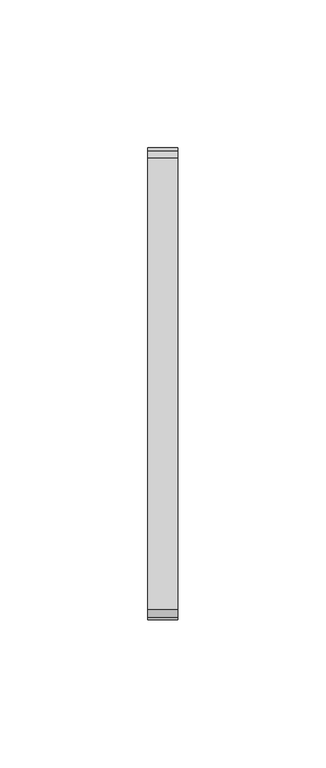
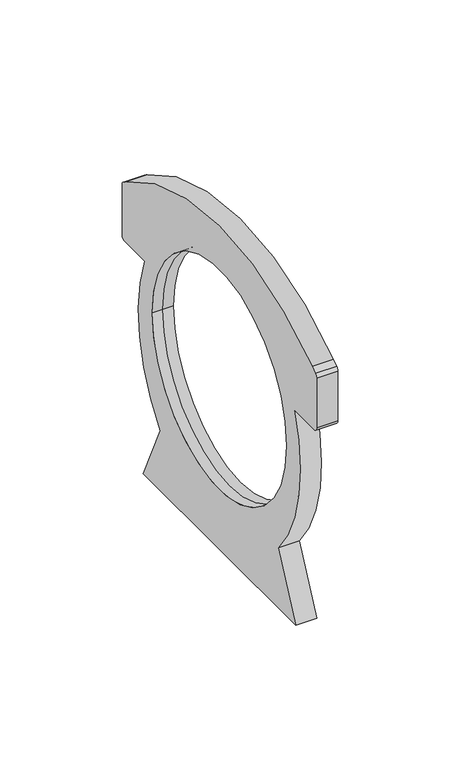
"""IFC4 building model written with IfcOpenShell, lengths in millimetres: valve geometry, PP_KELEPÇE : PP_KELEPÇE."""

from ifc_helpers import new_model, si_unit, frame, origin, place, context, project, spatial, polyline, circle_curve, source, transform, mapped, element, save
from ifc_brep_helpers import plane_surface, cylinder_surface, revolved_surface, advanced_brep


def valve_aa45e59f(model_context):
    return source(origin(), model_context, "Body", "AdvancedBrep", [
        advanced_brep(
        [(5.0, -76.1471333, 52.699694), (5.0, -78.8200811, 50.8098343), (5.0, -79.75, 49.0134785), (5.0, -79.75, 24.2), (5.0, -77.55, 22.0), (5.0, -61.2288831, 22.0), (5.0, -48.3114202, -55.0), (5.0, -62.5, -85.0), (5.0, 62.5, -85.0), (5.0, 48.3114202, -55.0), (5.0, 61.2288831, 22.0), (5.0, 77.55, 22.0), (5.0, 79.75, 24.2), (5.0, 79.75, 49.0065226), (5.0, 78.8233067, 50.8005934), (5.0, 76.3405231, 52.5627005), (5.0, -55.0, 0.0), (5.0, 55.0, 0.0), (-5.0, -76.1471333, 52.699694), (-5.0, 76.3405231, 52.5627005), (-5.0, 78.8233067, 50.8005934), (-5.0, 79.75, 49.0065226), (-5.0, 79.75, 24.2), (-5.0, 77.55, 22.0), (-5.0, 61.2288831, 22.0), (-5.0, 48.3114202, -55.0), (-5.0, 62.5, -85.0), (-5.0, -62.5, -85.0), (-5.0, -48.3114202, -55.0), (-5.0, -61.2288831, 22.0), (-5.0, -77.55, 22.0), (-5.0, -79.75, 24.2), (-5.0, -79.75, 49.0134785), (-5.0, -78.8200811, 50.8098343), (-5.0, 55.0, 0.0), (-5.0, -55.0, 0.0), (0.0, -55.0, 0.0), (0.0, 55.0, 0.0)],
        [
            (0, 1),
            (1, 2, circle_curve(frame((5.0, -77.55, 49.0134785), z_axis=(1.0, 0.0, 0.0), x_axis=(0.0, 1.0, 0.0)), 2.2)),
            (2, 3),
            (3, 4, circle_curve(frame((5.0, -77.55, 24.2), z_axis=(1.0, 0.0, 0.0), x_axis=(0.0, 1.0, 0.0)), 2.2)),
            (4, 5),
            (5, 6, circle_curve(frame((5.0, 10.8, -5.5), z_axis=(1.0, 0.0, 0.0), x_axis=(0.0, 1.0, 0.0)), 77.1)),
            (6, 7),
            (7, 8),
            (8, 9),
            (9, 10, circle_curve(frame((5.0, -10.8, -5.5), z_axis=(1.0, 0.0, 0.0), x_axis=(0.0, 1.0, 0.0)), 77.1)),
            (10, 11),
            (11, 12, circle_curve(frame((5.0, 77.55, 24.2), z_axis=(1.0, 0.0, 0.0), x_axis=(0.0, 1.0, 0.0)), 2.2)),
            (12, 13),
            (13, 14, circle_curve(frame((5.0, 77.55, 49.0065226), z_axis=(1.0, 0.0, 0.0), x_axis=(0.0, 1.0, 0.0)), 2.2)),
            (14, 15),
            (15, 0, circle_curve(frame((5.0, 0.0, -55.0), z_axis=(1.0, 0.0, 0.0), x_axis=(0.0, 1.0, 0.0)), 131.9)),
            (16, 17, circle_curve(frame((5.0, 0.0, 0.0), z_axis=(-1.0, 0.0, 0.0), x_axis=(0.0, -1.0, 0.0)), 55.0)),
            (17, 16, circle_curve(frame((5.0, 0.0, 0.0), z_axis=(-1.0, 0.0, 0.0), x_axis=(0.0, -1.0, 0.0)), 55.0)),
            (18, 19, circle_curve(frame((-5.0, 0.0, -55.0), z_axis=(-1.0, 0.0, 0.0), x_axis=(0.0, 1.0, 0.0)), 131.9)),
            (19, 20),
            (20, 21, circle_curve(frame((-5.0, 77.55, 49.0065226), z_axis=(-1.0, 0.0, 0.0), x_axis=(0.0, 1.0, 0.0)), 2.2)),
            (21, 22),
            (22, 23, circle_curve(frame((-5.0, 77.55, 24.2), z_axis=(-1.0, 0.0, 0.0), x_axis=(0.0, 1.0, 0.0)), 2.2)),
            (23, 24),
            (24, 25, circle_curve(frame((-5.0, -10.8, -5.5), z_axis=(-1.0, 0.0, 0.0), x_axis=(0.0, 1.0, 0.0)), 77.1)),
            (25, 26),
            (26, 27),
            (27, 28),
            (28, 29, circle_curve(frame((-5.0, 10.8, -5.5), z_axis=(-1.0, 0.0, 0.0), x_axis=(0.0, 1.0, 0.0)), 77.1)),
            (29, 30),
            (30, 31, circle_curve(frame((-5.0, -77.55, 24.2), z_axis=(-1.0, 0.0, 0.0), x_axis=(0.0, 1.0, 0.0)), 2.2)),
            (31, 32),
            (32, 33, circle_curve(frame((-5.0, -77.55, 49.0134785), z_axis=(-1.0, 0.0, 0.0), x_axis=(0.0, 1.0, 0.0)), 2.2)),
            (33, 18),
            (34, 35, circle_curve(frame((-5.0, 0.0, 0.0), z_axis=(1.0, 0.0, 0.0), x_axis=(0.0, -1.0, 0.0)), 55.0)),
            (35, 34, circle_curve(frame((-5.0, 0.0, 0.0), z_axis=(1.0, 0.0, 0.0), x_axis=(0.0, -1.0, 0.0)), 55.0)),
            (2, 32),
            (31, 3),
            (4, 30),
            (29, 5),
            (28, 6),
            (27, 7),
            (26, 8),
            (25, 9),
            (24, 10),
            (23, 11),
            (12, 22),
            (21, 13),
            (15, 19),
            (18, 0),
            (33, 1),
            (20, 14),
            (16, 36),
            (36, 37, circle_curve(frame((0.0, 0.0, 0.0), z_axis=(-1.0, 0.0, 0.0), x_axis=(0.0, -1.0, 0.0)), 55.0)),
            (37, 17),
            (37, 36, circle_curve(frame((0.0, 0.0, 0.0), z_axis=(-1.0, 0.0, 0.0), x_axis=(0.0, -1.0, 0.0)), 55.0)),
            (36, 35),
            (34, 37),
        ],
        [
            plane_surface(frame((5.0, -76.1471333, 52.699694), z_axis=(1.0000000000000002, 0.0, 0.0), x_axis=(0.0, -0.81652535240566, -0.5773095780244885))),
            plane_surface(frame((-5.0, -76.1471333, 52.699694), z_axis=(-1.0000000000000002, 0.0, 0.0), x_axis=(0.0, 0.81652535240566, 0.5773095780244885))),
            plane_surface(frame((5.0, -79.75, 49.0134785), z_axis=(0.0, -1.0, 0.0), x_axis=(-1.0, 0.0, 0.0))),
            plane_surface(frame((5.0, -77.55, 22.0), z_axis=(0.0, 0.0, -1.0), x_axis=(-1.0, 0.0, 0.0))),
            cylinder_surface(frame((-5.0, 10.8, -5.5), z_axis=(1.0, 0.0, 0.0), x_axis=(0.0, 1.0, 0.0)), 77.1),
            plane_surface(frame((5.0, -48.3114202, -55.0), z_axis=(0.0, -0.9039935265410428, 0.4275461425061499), x_axis=(-1.0, 0.0, 0.0))),
            plane_surface(frame((5.0, -62.5, -85.0), z_axis=(0.0, 0.0, -1.0), x_axis=(-1.0, 0.0, 0.0))),
            plane_surface(frame((5.0, 62.5, -85.0), z_axis=(0.0, 0.9039935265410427, 0.4275461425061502), x_axis=(-1.0, 0.0, 0.0))),
            cylinder_surface(frame((-5.0, -10.8, -5.5), z_axis=(1.0, 0.0, 0.0), x_axis=(0.0, 1.0, 0.0)), 77.1),
            plane_surface(frame((5.0, 61.2288831, 22.0), z_axis=(0.0, 0.0, -1.0), x_axis=(-1.0, 0.0, 0.0))),
            plane_surface(frame((5.0, 79.75, 24.2), z_axis=(0.0, 1.0, 0.0), x_axis=(-1.0, 0.0, 0.0))),
            cylinder_surface(frame((-5.0, 0.0, -55.0), z_axis=(1.0, 0.0, 0.0), x_axis=(0.0, 1.0, 0.0)), 131.9),
            plane_surface(frame((5.0, -76.1471333, 52.699694), z_axis=(0.0, -0.5773095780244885, 0.81652535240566), x_axis=(-1.0, 0.0, 0.0))),
            cylinder_surface(frame((-5.0, -77.55, 49.0134785), z_axis=(1.0, 0.0, 0.0), x_axis=(0.0, 1.0, 0.0)), 2.2),
            cylinder_surface(frame((-5.0, -77.55, 24.2), z_axis=(1.0, 0.0, 0.0), x_axis=(0.0, 1.0, 0.0)), 2.2),
            cylinder_surface(frame((-5.0, 77.55, 24.2), z_axis=(1.0, 0.0, 0.0), x_axis=(0.0, 1.0, 0.0)), 2.2),
            cylinder_surface(frame((-5.0, 77.55, 49.0065226), z_axis=(1.0, 0.0, 0.0), x_axis=(0.0, 1.0, 0.0)), 2.2),
            plane_surface(frame((5.0, 78.8233067, 50.8005934), z_axis=(0.0, 0.5787757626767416, 0.8154867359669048), x_axis=(-1.0, 0.0, 0.0))),
            revolved_surface(polyline([(5.0, -55.0, 0.0), (0.0, -55.0, 0.0)]), (5.0, 0.0, 0.0), (1.0, 0.0, 0.0)),
            revolved_surface(polyline([(0.0, -55.0, 0.0), (-5.0, -55.0, 0.0)]), (0.0, 0.0, 0.0), (1.0, 0.0, 0.0)),
        ],
        [
            (0, [[1, 2, 3, 4, 5, 6, 7, 8, 9, 10, 11, 12, 13, 14, 15, 16], [17, 18]]),
            (1, [[19, 20, 21, 22, 23, 24, 25, 26, 27, 28, 29, 30, 31, 32, 33, 34], [35, 36]]),
            (2, [[-3, 37, -32, 38]]),
            (3, [[-5, 39, -30, 40]]),
            (4, [[-6, -40, -29, 41]]),
            (5, [[-7, -41, -28, 42]]),
            (6, [[-8, -42, -27, 43]]),
            (7, [[-9, -43, -26, 44]]),
            (8, [[-10, -44, -25, 45]]),
            (9, [[-11, -45, -24, 46]]),
            (10, [[-13, 47, -22, 48]]),
            (11, [[-16, 49, -19, 50]]),
            (12, [[-1, -50, -34, 51]]),
            (13, [[-2, -51, -33, -37]]),
            (14, [[-4, -38, -31, -39]]),
            (15, [[-12, -46, -23, -47]]),
            (16, [[-14, -48, -21, 52]]),
            (17, [[-15, -52, -20, -49]]),
            (18, [[53, 54, 55, -17]]),
            (18, [[-53, -18, -55, 56]]),
            (19, [[-54, 57, -35, 58]]),
            (19, [[-56, -58, -36, -57]]),
        ],
    ),
    ])


if __name__ == "__main__":
    model = new_model("IFC4")
    model_context = context("Model", 3, world=origin())
    ifc_project = project(units=[si_unit("LENGTHUNIT", "METRE", prefix="MILLI")], contexts=[model_context])
    site = spatial("IfcSite", under=ifc_project)
    building = spatial("IfcBuilding", under=site)
    placement = place(None, origin())
    valve_shape = valve_aa45e59f(model_context)
    element("IfcValve", 1, ObjectType="PP_KELEPÇE : PP_KELEPÇE", at=placement, inside=building, context=model_context, shape_type="MappedRepresentation", body=[
        mapped(valve_shape, transform((0.0, 0.0, 0.0), x_axis=(1.0, 0.0, 0.0), y_axis=(0.0, 1.0, 0.0), z_axis=(0.0, 0.0, 1.0))),
    ])
    save(model, "model.ifc")
